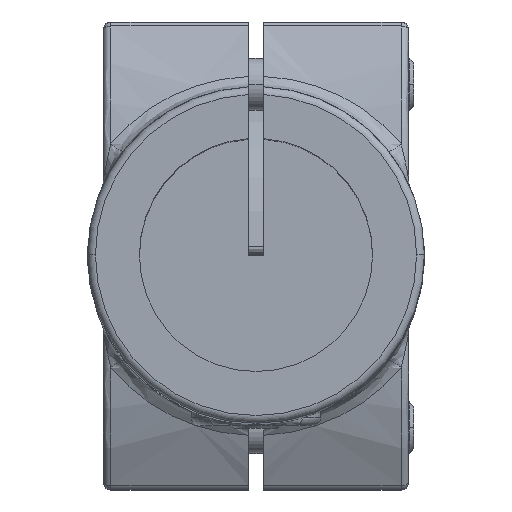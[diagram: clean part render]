
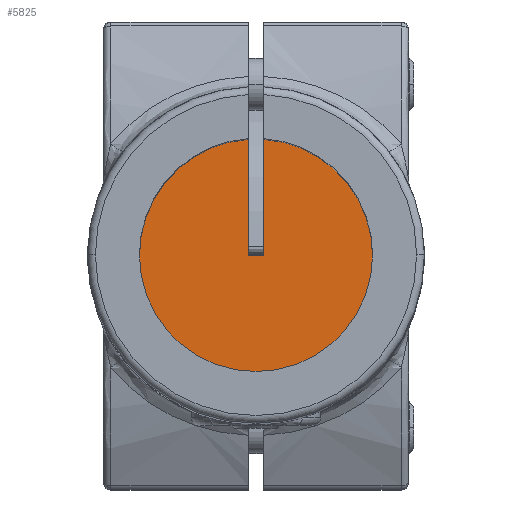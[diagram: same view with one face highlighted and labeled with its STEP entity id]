
A CAD part, top view. The second image highlights one B-rep face of the part: STEP entity #5825.
In plain terms, the highlighted planar face has unit normal (0, 0, 1) as drawn and (0, 0, -1) by its records, which use the part's own axes.
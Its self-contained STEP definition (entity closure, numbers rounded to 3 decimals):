
#1366 = ORIENTED_EDGE ( 'NONE', *, *, #4248, .F. ) ;
#1385 = LINE ( 'NONE', #11213, #15119 ) ;
#1633 = ORIENTED_EDGE ( 'NONE', *, *, #5674, .T. ) ;
#1784 = PLANE ( 'NONE',  #13316 ) ;
#1967 = VECTOR ( 'NONE', #12346, 1000. ) ;
#2226 = CARTESIAN_POINT ( 'NONE',  ( -1.5, 0., 74. ) ) ;
#2299 = CARTESIAN_POINT ( 'NONE',  ( 1.5, 0., 74. ) ) ;
#2675 = ORIENTED_EDGE ( 'NONE', *, *, #13423, .F. ) ;
#3065 = EDGE_CURVE ( 'NONE', #13260, #15460, #10372, .T. ) ;
#3509 = CARTESIAN_POINT ( 'NONE',  ( 22.5, 0., 74. ) ) ;
#3592 = LINE ( 'NONE', #11424, #1967 ) ;
#3806 = EDGE_CURVE ( 'NONE', #15643, #13260, #10134, .T. ) ;
#3855 = VERTEX_POINT ( 'NONE', #2299 ) ;
#3971 = DIRECTION ( 'NONE',  ( -1., 0., 0. ) ) ;
#4248 = EDGE_CURVE ( 'NONE', #15643, #3855, #8245, .T. ) ;
#4546 = CARTESIAN_POINT ( 'NONE',  ( -22.5, 0., 74. ) ) ;
#4848 = AXIS2_PLACEMENT_3D ( 'NONE', #12895, #12729, #3971 ) ;
#5495 = FACE_OUTER_BOUND ( 'NONE', #12572, .T. ) ;
#5674 = EDGE_CURVE ( 'NONE', #15460, #15566, #15937, .T. ) ;
#5687 = CARTESIAN_POINT ( 'NONE',  ( 0., 0., 74. ) ) ;
#5825 = ADVANCED_FACE ( 'NONE', ( #5495 ), #1784, .T. ) ;
#6386 = AXIS2_PLACEMENT_3D ( 'NONE', #8832, #7513, #10070 ) ;
#6993 = DIRECTION ( 'NONE',  ( 0., -1., 0. ) ) ;
#7261 = DIRECTION ( 'NONE',  ( -1., 0., 0. ) ) ;
#7513 = DIRECTION ( 'NONE',  ( 0., 0., -1. ) ) ;
#8245 = LINE ( 'NONE', #13283, #15060 ) ;
#8641 = ORIENTED_EDGE ( 'NONE', *, *, #3065, .T. ) ;
#8832 = CARTESIAN_POINT ( 'NONE',  ( 0., 0., 74. ) ) ;
#10014 = ORIENTED_EDGE ( 'NONE', *, *, #13033, .T. ) ;
#10070 = DIRECTION ( 'NONE',  ( -1., 0., 0. ) ) ;
#10134 = CIRCLE ( 'NONE', #16181, 22.5 ) ;
#10372 = CIRCLE ( 'NONE', #6386, 22.5 ) ;
#10979 = DIRECTION ( 'NONE',  ( 0., 0., -1. ) ) ;
#11213 = CARTESIAN_POINT ( 'NONE',  ( -1.5, 45., 74. ) ) ;
#11291 = DIRECTION ( 'NONE',  ( 0., -1., 0. ) ) ;
#11424 = CARTESIAN_POINT ( 'NONE',  ( -1.5, 0., 74. ) ) ;
#11488 = ORIENTED_EDGE ( 'NONE', *, *, #3806, .T. ) ;
#12346 = DIRECTION ( 'NONE',  ( -1., 0., 0. ) ) ;
#12572 = EDGE_LOOP ( 'NONE', ( #11488, #8641, #1633, #10014, #2675, #1366 ) ) ;
#12729 = DIRECTION ( 'NONE',  ( 0., 0., -1. ) ) ;
#12895 = CARTESIAN_POINT ( 'NONE',  ( 0., 0., 74. ) ) ;
#13033 = EDGE_CURVE ( 'NONE', #15566, #14496, #1385, .T. ) ;
#13260 = VERTEX_POINT ( 'NONE', #3509 ) ;
#13283 = CARTESIAN_POINT ( 'NONE',  ( 1.5, 45., 74. ) ) ;
#13316 = AXIS2_PLACEMENT_3D ( 'NONE', #14009, #15405, #14330 ) ;
#13423 = EDGE_CURVE ( 'NONE', #3855, #14496, #3592, .T. ) ;
#14009 = CARTESIAN_POINT ( 'NONE',  ( 0., 0., 74. ) ) ;
#14196 = CARTESIAN_POINT ( 'NONE',  ( 1.5, 22.45, 74. ) ) ;
#14330 = DIRECTION ( 'NONE',  ( -1., 0., 0. ) ) ;
#14496 = VERTEX_POINT ( 'NONE', #2226 ) ;
#14796 = CARTESIAN_POINT ( 'NONE',  ( -1.5, 22.45, 74. ) ) ;
#15060 = VECTOR ( 'NONE', #6993, 1000. ) ;
#15119 = VECTOR ( 'NONE', #11291, 1000. ) ;
#15405 = DIRECTION ( 'NONE',  ( 0., 0., -1. ) ) ;
#15460 = VERTEX_POINT ( 'NONE', #4546 ) ;
#15566 = VERTEX_POINT ( 'NONE', #14796 ) ;
#15643 = VERTEX_POINT ( 'NONE', #14196 ) ;
#15937 = CIRCLE ( 'NONE', #4848, 22.5 ) ;
#16181 = AXIS2_PLACEMENT_3D ( 'NONE', #5687, #10979, #7261 ) ;
